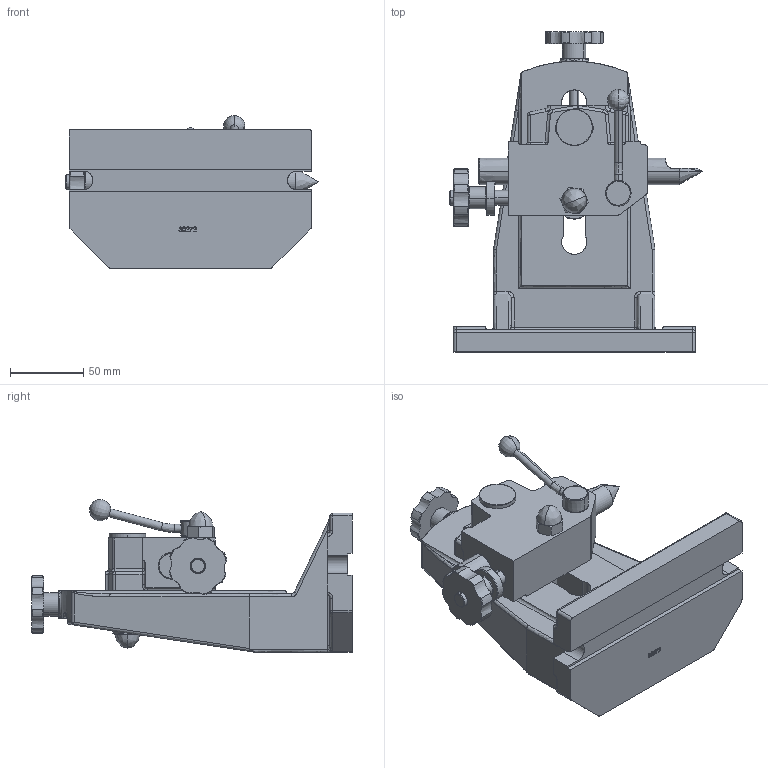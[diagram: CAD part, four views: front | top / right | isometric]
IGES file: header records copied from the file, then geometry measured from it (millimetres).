
Start section: SolidWorks IGES file using analytic representation for surfaces
Global section: file name: U:\SOLIDWORKS HOLDING FILE\WORKHOLDING\PARTS FOR WEBSITE\30272 TAILSTOCK\30272 TAILSTOCK ASSY.IGS; native system: SolidWorks 2012; preprocessor: SolidWorks 2012; author: RTooley; date: 131107.141639; units: millimetre
Bounding box: 172.4 x 218 x 104.19 mm (x, y, z)
Surface area: 156123.8 mm2 (no closed solid volume)
Topology: 0 solids, 0 shells, 546 faces, 6719 edges, 6699 vertices
Faces by surface type: revolution 310, bspline 236
